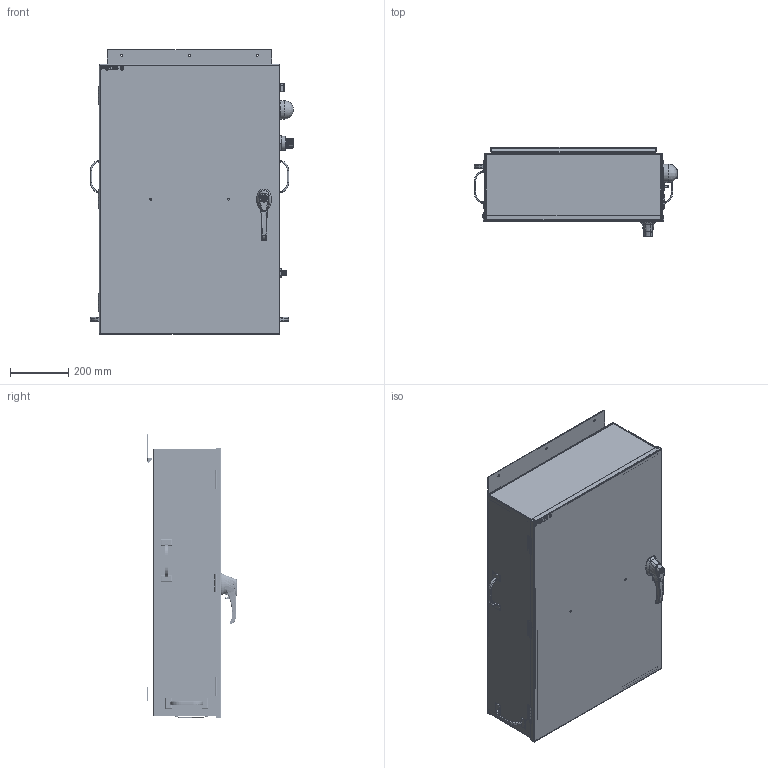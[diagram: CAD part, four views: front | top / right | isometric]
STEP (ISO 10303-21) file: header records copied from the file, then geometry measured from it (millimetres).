
FILE_DESCRIPTION(/* description */ ('','CAx-IF Rec.Pracs.---Representation and Presentation of Product Manufacturing Information (PMI)---4.0---2014-10-13'),/* implementation_level */ '2;1');
FILE_NAME(/* name */ 'C:\Vault Local\Designs\CAD\Manufacturing\ECS Products\PGEN Nitrogen Generators\PGEN-3\Export\PGEN-3.stp',/* time_stamp */ '2020-12-01T11:18:06-06:00',/* author */ ('myoung'),/* organization */ (''),/* preprocessor_version */ 'ST-DEVELOPER v18.1',/* originating_system */ 'Autodesk Inventor 2020',/* authorisation */ '');
FILE_SCHEMA (('AP242_MANAGED_MODEL_BASED_3D_ENGINEERING_MIM_LF { 1 0 10303 442 1 1 4 }'));
Products named in the file (1): PGEN-3_Shrinkwrap_1
Bounding box: 696.56 x 305.65 x 974.45 mm (x, y, z)
Volume: 4598125.4 mm3; surface area: 4292473.1 mm2
Topology: 19 solids, 22 shells, 5313 faces, 13759 edges, 8608 vertices
Faces by surface type: plane 1851, cylinder 1658, bspline 1307, torus 256, cone 183, sphere 58
Full cylindrical faces by diameter (mm): 1.8 x12, 2 x2, 2.02 x28, 2.286 x22, 2.54 x8, 2.845 x15, 2.997 x2, 3.175 x3, 3.5 x3, 3.8 x2, 4.1 x3, 4.318 x8, 4.496 x4, 5 x1, 5.156 x4, 5.563 x2, 6.35 x8, 7 x1, 7.112 x5, 8 x2, 8.458 x6, 9.9 x1, 10 x1, 11.112 x1, 11.8 x1, 11.9 x2, 12 x1, 15.799 x1, 15.8 x1, 15.9 x1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
Entity records: 263953 total; most frequent: CARTESIAN_POINT 135904, ORIENTED_EDGE 27544, DIRECTION 23121, EDGE_CURVE 13772, VERTEX_POINT 8624, AXIS2_PLACEMENT_3D 8284, LINE 6553, VECTOR 6553
